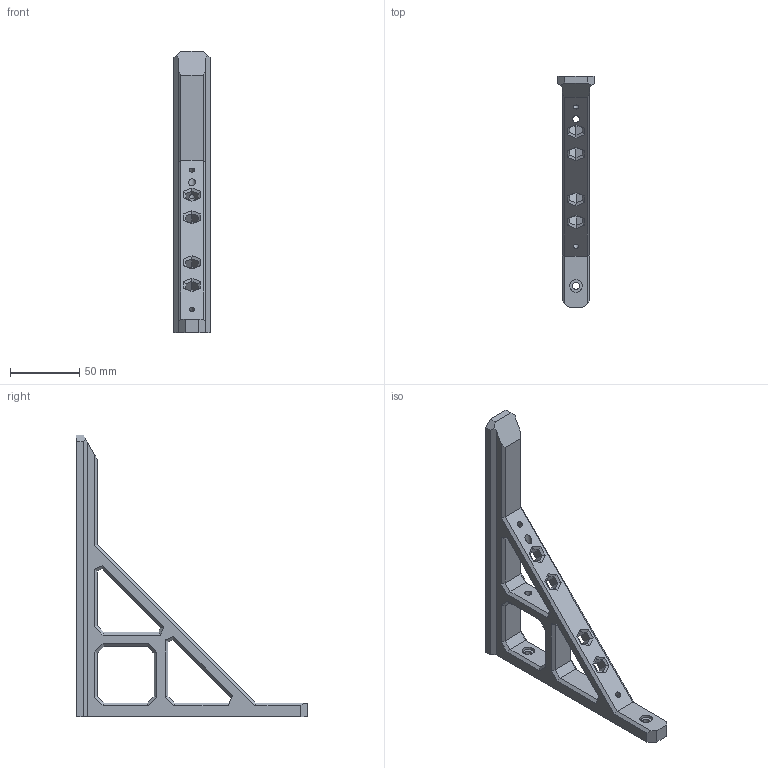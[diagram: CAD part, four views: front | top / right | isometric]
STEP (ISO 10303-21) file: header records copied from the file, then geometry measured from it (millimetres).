
FILE_DESCRIPTION(/* description */ (''),/* implementation_level */ '2;1');
FILE_NAME(/* name */ '8in Shelf Bracket (Center).step',/* time_stamp */ '2026-05-02T09:57:43-04:00',/* author */ (''),/* organization */ (''),/* preprocessor_version */ 'ST-DEVELOPER v20.1',/* originating_system */ 'Autodesk Translation Framework v15.8.0.0',/* authorisation */ '');
FILE_SCHEMA (('AUTOMOTIVE_DESIGN { 1 0 10303 214 3 1 1 }'));
Length unit declared in the file: millimetre
Products named in the file (1): 8in Shelf Bracket (Center)
Bounding box: 26 x 166.6 x 203.2 mm (x, y, z)
Volume: 140763.3 mm3; surface area: 38070.5 mm2
Topology: 1 solids, 1 shells, 151 faces, 360 edges, 218 vertices
Faces by surface type: plane 139, cylinder 12
Full cylindrical faces by diameter (mm): 4.1 x2, 5 x8, 9 x2
Entity records: 4290 total; most frequent: CARTESIAN_POINT 730, ORIENTED_EDGE 720, DIRECTION 691, EDGE_CURVE 360, LINE 333, VECTOR 333, VERTEX_POINT 218, EDGE_LOOP 180
